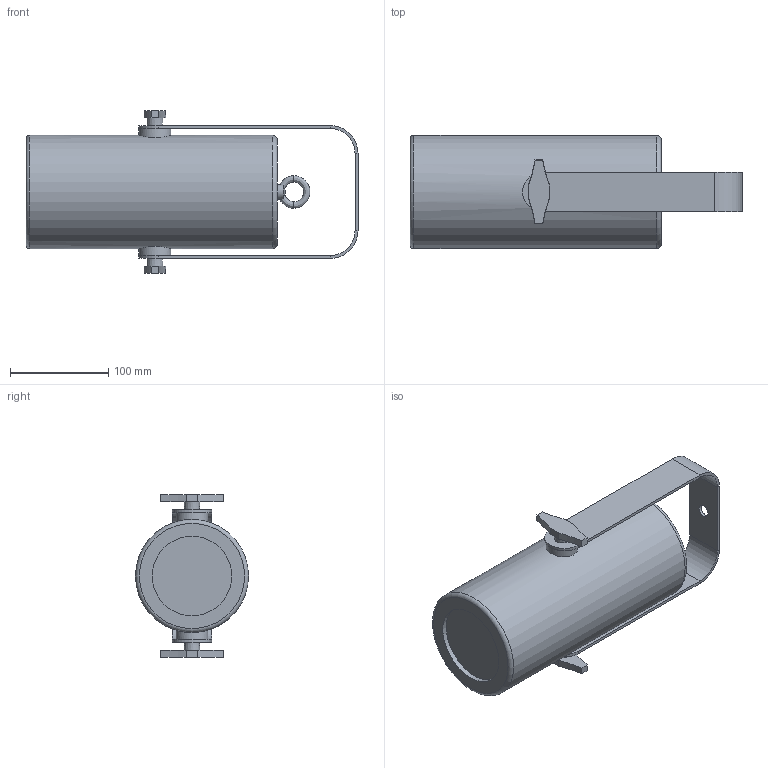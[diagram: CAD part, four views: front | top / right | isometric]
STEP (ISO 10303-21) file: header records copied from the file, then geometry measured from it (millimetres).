
FILE_DESCRIPTION(/* description */ (''),/* implementation_level */ '2;1');
FILE_NAME(/* name */ 'D:/dgooch/Documents/CADENG/PRO/Ovation H-55WW/0/3D/Ovation H-55WW_0.step',/* time_stamp */ '2019-11-13T10:20:51-05:00',/* author */ (''),/* organization */ (''),/* preprocessor_version */ 'ST-DEVELOPER v18',/* originating_system */ 'Autodesk Translation Framework v8.12.0.6',/* authorisation */ '');
FILE_SCHEMA (('AUTOMOTIVE_DESIGN { 1 0 10303 214 3 1 1 }'));
Length unit declared in the file: millimetre
Products named in the file (3): Ovation Mini Houselight; Bracket; Mian
Assembly tree (2 placements, depth 2):
  Ovation Mini Houselight
    Bracket
    Mian
Bounding box: 337.6 x 115 x 165.71 mm (x, y, z)
Volume: 2725634.8 mm3; surface area: 175635.8 mm2
Topology: 2 solids, 2 shells, 67 faces, 157 edges, 100 vertices
Faces by surface type: plane 34, cylinder 14, cone 11, bspline 6, torus 2
Full cylindrical faces by diameter (mm): 8.1 x2, 13 x1, 15.3 x1, 32.439 x2, 81 x1, 115 x1
Entity records: 3838 total; most frequent: CARTESIAN_POINT 2239, DIRECTION 317, ORIENTED_EDGE 314, EDGE_CURVE 157, AXIS2_PLACEMENT_3D 126, VERTEX_POINT 100, EDGE_LOOP 81, FACE_OUTER_BOUND 67
